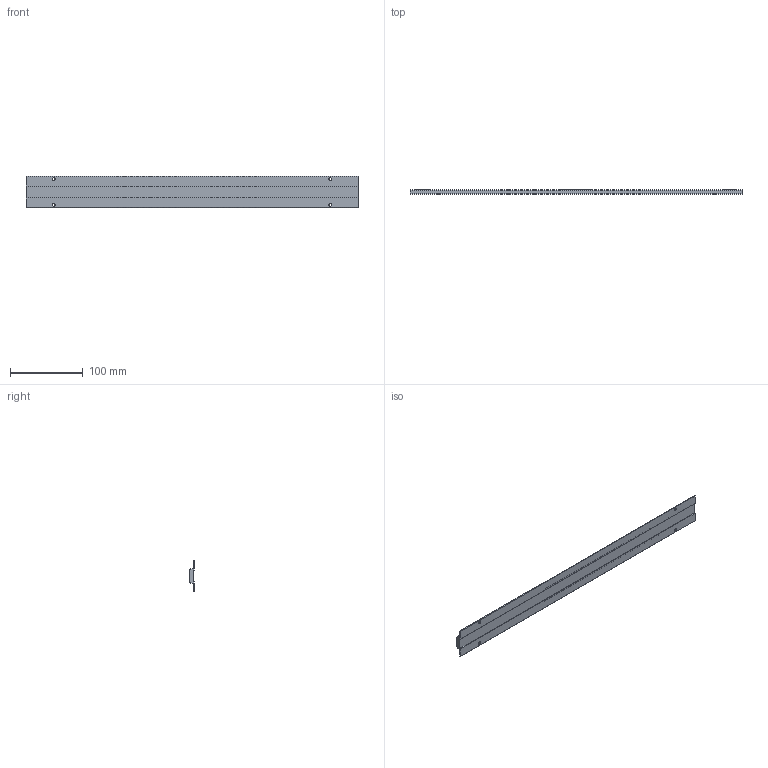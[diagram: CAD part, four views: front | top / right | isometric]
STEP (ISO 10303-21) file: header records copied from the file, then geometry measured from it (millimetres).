
FILE_DESCRIPTION(/* description */ (''),/* implementation_level */ '2;1');
FILE_NAME(/* name */ 'MAG-STRP-0018-CUST-WRAP.step',/* time_stamp */ '2024-09-18T09:02:26-05:00',/* author */ (''),/* organization */ (''),/* preprocessor_version */ 'ST-DEVELOPER v20',/* originating_system */ 'Autodesk Translation Framework v13.14.0.145',/* authorisation */ '');
FILE_SCHEMA (('AUTOMOTIVE_DESIGN { 1 0 10303 214 3 1 1 }'));
Length unit declared in the file: millimetre
Products named in the file (1): MAG-STRP-0018-CUST-WRAP
Bounding box: 457.2 x 6.35 x 42.91 mm (x, y, z)
Volume: 63326.8 mm3; surface area: 44437.5 mm2
Topology: 1 solids, 1 shells, 474 faces, 1290 edges, 860 vertices
Faces by surface type: plane 268, bspline 194, cylinder 12
Full cylindrical faces by diameter (mm): 3.962 x4
Entity records: 16647 total; most frequent: CARTESIAN_POINT 5923, ORIENTED_EDGE 2580, DIRECTION 1488, EDGE_CURVE 1290, LINE 878, VECTOR 878, VERTEX_POINT 860, EDGE_LOOP 524
